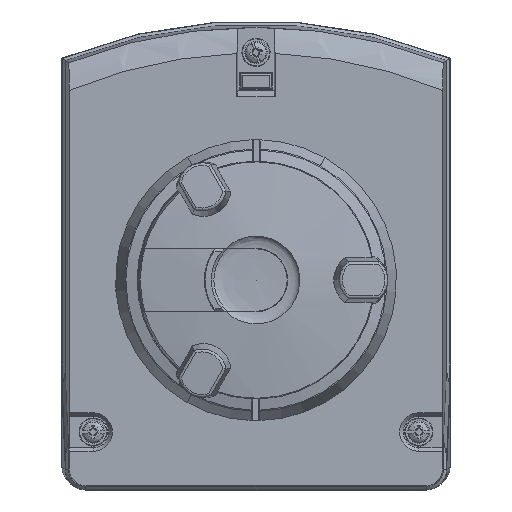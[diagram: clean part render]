
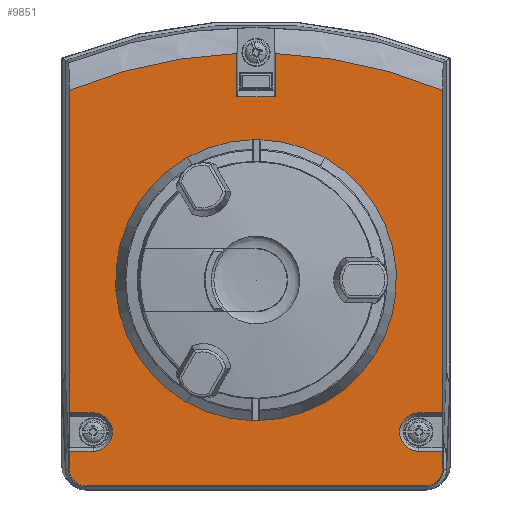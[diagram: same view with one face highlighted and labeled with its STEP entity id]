
A CAD part, top view. The second image highlights one B-rep face of the part: STEP entity #9851.
In plain terms, the highlighted planar face has unit normal (0, 0, 1).
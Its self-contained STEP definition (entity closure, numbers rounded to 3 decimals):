
#9190=CIRCLE('',#26043,155.5);
#9191=CIRCLE('',#26044,155.5);
#9192=CIRCLE('',#26045,6.13);
#9193=CIRCLE('',#26048,6.13);
#9851=ADVANCED_FACE('',(#11310),#10556,.T.);
#10556=PLANE('',#26049);
#11310=FACE_OUTER_BOUND('',#12336,.T.);
#12336=EDGE_LOOP('',(#15824,#15825,#15826,#15827,#15828,#15829,#15830,#15831,
#15832,#15833,#15834,#15835,#15836,#15837,#15838,#15839,#15840,#15841,#15842));
#12912=ELLIPSE('',#26015,0.313,0.25);
#12918=ELLIPSE('',#26046,5.507,5.5);
#12919=ELLIPSE('',#26047,5.507,5.5);
#15824=ORIENTED_EDGE('',*,*,#21619,.F.);
#15825=ORIENTED_EDGE('',*,*,#21609,.F.);
#15826=ORIENTED_EDGE('',*,*,#21620,.F.);
#15827=ORIENTED_EDGE('',*,*,#21621,.T.);
#15828=ORIENTED_EDGE('',*,*,#21622,.T.);
#15829=ORIENTED_EDGE('',*,*,#21623,.T.);
#15830=ORIENTED_EDGE('',*,*,#21624,.T.);
#15831=ORIENTED_EDGE('',*,*,#21611,.F.);
#15832=ORIENTED_EDGE('',*,*,#21625,.T.);
#15833=ORIENTED_EDGE('',*,*,#21626,.T.);
#15834=ORIENTED_EDGE('',*,*,#21627,.T.);
#15835=ORIENTED_EDGE('',*,*,#21617,.F.);
#15836=ORIENTED_EDGE('',*,*,#21628,.T.);
#15837=ORIENTED_EDGE('',*,*,#21599,.T.);
#15838=ORIENTED_EDGE('',*,*,#21629,.T.);
#15839=ORIENTED_EDGE('',*,*,#21603,.T.);
#15840=ORIENTED_EDGE('',*,*,#21542,.F.);
#15841=ORIENTED_EDGE('',*,*,#21630,.F.);
#15842=ORIENTED_EDGE('',*,*,#21631,.F.);
#19305=VERTEX_POINT('',#36146);
#19306=VERTEX_POINT('',#36148);
#19356=VERTEX_POINT('',#36300);
#19357=VERTEX_POINT('',#36302);
#19358=VERTEX_POINT('',#36307);
#19359=VERTEX_POINT('',#36309);
#19362=VERTEX_POINT('',#36323);
#19363=VERTEX_POINT('',#36327);
#19364=VERTEX_POINT('',#36329);
#19367=VERTEX_POINT('',#36343);
#19368=VERTEX_POINT('',#36345);
#19369=VERTEX_POINT('',#36349);
#19370=VERTEX_POINT('',#36351);
#19371=VERTEX_POINT('',#36353);
#19372=VERTEX_POINT('',#36355);
#19373=VERTEX_POINT('',#36357);
#19374=VERTEX_POINT('',#36360);
#19375=VERTEX_POINT('',#36362);
#19376=VERTEX_POINT('',#36367);
#21542=EDGE_CURVE('',#19306,#19305,#12912,.T.);
#21599=EDGE_CURVE('',#19357,#19356,#23469,.T.);
#21603=EDGE_CURVE('',#19359,#19305,#23473,.T.);
#21609=EDGE_CURVE('',#19362,#19358,#23477,.T.);
#21611=EDGE_CURVE('',#19363,#19364,#23479,.T.);
#21617=EDGE_CURVE('',#19367,#19368,#23483,.T.);
#21619=EDGE_CURVE('',#19358,#19369,#23485,.T.);
#21620=EDGE_CURVE('',#19370,#19362,#9190,.T.);
#21621=EDGE_CURVE('',#19370,#19371,#23486,.T.);
#21622=EDGE_CURVE('',#19371,#19372,#23487,.T.);
#21623=EDGE_CURVE('',#19372,#19373,#23488,.T.);
#21624=EDGE_CURVE('',#19373,#19364,#9191,.T.);
#21625=EDGE_CURVE('',#19363,#19374,#23489,.T.);
#21626=EDGE_CURVE('',#19374,#19375,#9192,.T.);
#21627=EDGE_CURVE('',#19375,#19368,#23490,.T.);
#21628=EDGE_CURVE('',#19367,#19357,#12918,.T.);
#21629=EDGE_CURVE('',#19356,#19359,#12919,.T.);
#21630=EDGE_CURVE('',#19376,#19306,#23491,.T.);
#21631=EDGE_CURVE('',#19369,#19376,#9193,.T.);
#23469=LINE('',#36301,#24525);
#23473=LINE('',#36308,#24529);
#23477=LINE('',#36324,#24533);
#23479=LINE('',#36328,#24535);
#23483=LINE('',#36344,#24539);
#23485=LINE('',#36348,#24541);
#23486=LINE('',#36352,#24542);
#23487=LINE('',#36354,#24543);
#23488=LINE('',#36356,#24544);
#23489=LINE('',#36359,#24545);
#23490=LINE('',#36363,#24546);
#23491=LINE('',#36366,#24547);
#24525=VECTOR('',#29224,1.);
#24529=VECTOR('',#29230,1.);
#24533=VECTOR('',#29234,1.);
#24535=VECTOR('',#29238,1.);
#24539=VECTOR('',#29242,1.);
#24541=VECTOR('',#29246,1.);
#24542=VECTOR('',#29249,1.);
#24543=VECTOR('',#29250,1.);
#24544=VECTOR('',#29251,1.);
#24545=VECTOR('',#29254,1.);
#24546=VECTOR('',#29257,1.);
#24547=VECTOR('',#29262,1.);
#26015=AXIS2_PLACEMENT_3D('',#36149,#29133,#29134);
#26043=AXIS2_PLACEMENT_3D('',#36350,#29247,#29248);
#26044=AXIS2_PLACEMENT_3D('',#36358,#29252,#29253);
#26045=AXIS2_PLACEMENT_3D('',#36361,#29255,#29256);
#26046=AXIS2_PLACEMENT_3D('',#36364,#29258,#29259);
#26047=AXIS2_PLACEMENT_3D('',#36365,#29260,#29261);
#26048=AXIS2_PLACEMENT_3D('',#36368,#29263,#29264);
#26049=AXIS2_PLACEMENT_3D('',#36369,#29265,#29266);
#29133=DIRECTION('',(0.,0.,-1.));
#29134=DIRECTION('',(-0.046,-0.999,0.));
#29224=DIRECTION('',(1.,0.,0.));
#29230=DIRECTION('',(0.,1.,0.));
#29234=DIRECTION('',(0.,-1.,0.));
#29238=DIRECTION('',(0.,1.,0.));
#29242=DIRECTION('',(0.,1.,0.));
#29246=DIRECTION('',(-1.,0.,0.));
#29247=DIRECTION('',(0.,0.,-1.));
#29248=DIRECTION('',(-1.,0.,0.));
#29249=DIRECTION('',(0.,-1.,0.));
#29250=DIRECTION('',(-1.,0.,0.));
#29251=DIRECTION('',(0.,1.,0.));
#29252=DIRECTION('',(0.,0.,1.));
#29253=DIRECTION('',(1.,0.,0.));
#29254=DIRECTION('',(1.,0.,0.));
#29255=DIRECTION('',(0.,0.,-1.));
#29256=DIRECTION('',(1.,0.,0.));
#29257=DIRECTION('',(-1.,0.,0.));
#29258=DIRECTION('',(0.,0.,1.));
#29259=DIRECTION('',(-0.707,-0.707,0.));
#29260=DIRECTION('',(0.,0.,1.));
#29261=DIRECTION('',(0.707,-0.707,0.));
#29262=DIRECTION('',(1.,0.,0.));
#29263=DIRECTION('',(0.,0.,1.));
#29264=DIRECTION('',(1.,0.,0.));
#29265=DIRECTION('',(0.,0.,1.));
#29266=DIRECTION('',(-1.,0.,0.));
#36146=CARTESIAN_POINT('',(59.638,-54.937,8.));
#36148=CARTESIAN_POINT('',(59.393,-54.63,8.));
#36149=CARTESIAN_POINT('',(59.388,-54.943,8.));
#36300=CARTESIAN_POINT('',(54.141,-65.679,8.));
#36301=CARTESIAN_POINT('',(0.,-65.679,8.));
#36302=CARTESIAN_POINT('',(-54.141,-65.679,8.));
#36307=CARTESIAN_POINT('',(59.638,-42.37,8.));
#36308=CARTESIAN_POINT('',(59.638,-83.,8.));
#36309=CARTESIAN_POINT('',(59.638,-60.182,8.));
#36323=CARTESIAN_POINT('',(59.638,60.609,8.));
#36324=CARTESIAN_POINT('',(59.638,2.155,8.));
#36327=CARTESIAN_POINT('',(-59.638,-42.37,8.));
#36328=CARTESIAN_POINT('',(-59.638,-83.,8.));
#36329=CARTESIAN_POINT('',(-59.638,60.609,8.));
#36343=CARTESIAN_POINT('',(-59.638,-60.182,8.));
#36344=CARTESIAN_POINT('',(-59.638,-83.,8.));
#36345=CARTESIAN_POINT('',(-59.638,-54.63,8.));
#36348=CARTESIAN_POINT('',(0.,-42.37,8.));
#36349=CARTESIAN_POINT('',(52.,-42.37,8.));
#36350=CARTESIAN_POINT('',(0.,-83.,8.));
#36351=CARTESIAN_POINT('',(6.084,72.381,8.));
#36352=CARTESIAN_POINT('',(6.084,72.75,8.));
#36353=CARTESIAN_POINT('',(6.084,58.624,8.));
#36354=CARTESIAN_POINT('',(0.,58.624,8.));
#36355=CARTESIAN_POINT('',(-6.084,58.624,8.));
#36356=CARTESIAN_POINT('',(-6.084,72.75,8.));
#36357=CARTESIAN_POINT('',(-6.084,72.381,8.));
#36358=CARTESIAN_POINT('',(0.,-83.,8.));
#36359=CARTESIAN_POINT('',(0.,-42.37,8.));
#36360=CARTESIAN_POINT('',(-52.,-42.37,8.));
#36361=CARTESIAN_POINT('',(-52.,-48.5,8.));
#36362=CARTESIAN_POINT('',(-52.,-54.63,8.));
#36363=CARTESIAN_POINT('',(-52.,-54.63,8.));
#36364=CARTESIAN_POINT('',(-54.135,-60.175,8.));
#36365=CARTESIAN_POINT('',(54.135,-60.175,8.));
#36366=CARTESIAN_POINT('',(-52.,-54.63,8.));
#36367=CARTESIAN_POINT('',(52.,-54.63,8.));
#36368=CARTESIAN_POINT('',(52.,-48.5,8.));
#36369=CARTESIAN_POINT('',(0.,-83.,8.));
